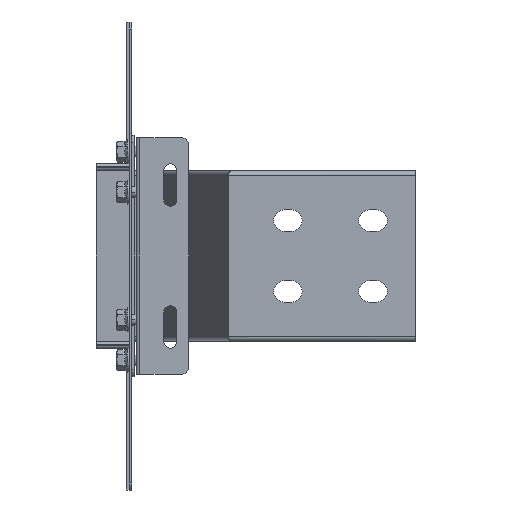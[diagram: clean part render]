
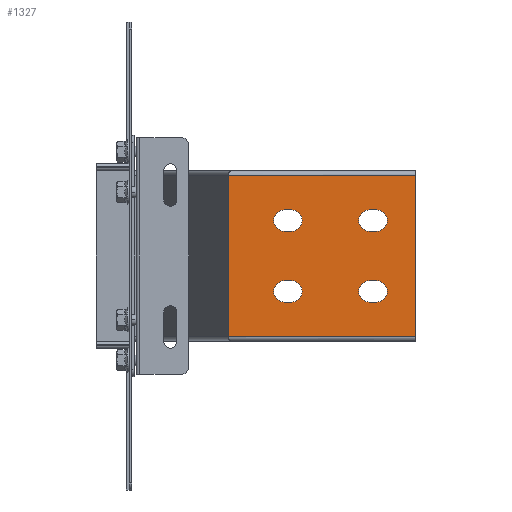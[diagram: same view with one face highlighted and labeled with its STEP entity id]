
A CAD part, front view. The second image highlights one B-rep face of the part: STEP entity #1327.
In plain terms, the highlighted planar face has unit normal (0, -1, 0).
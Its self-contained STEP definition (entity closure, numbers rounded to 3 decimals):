
#1155=AXIS2_PLACEMENT_3D('Plane Axis2P3D',#1152,#1153,#1154) ;
#1193=AXIS2_PLACEMENT_3D('Circle Axis2P3D',#1191,#1192,$) ;
#1209=AXIS2_PLACEMENT_3D('Circle Axis2P3D',#1207,#1208,$) ;
#1227=AXIS2_PLACEMENT_3D('Circle Axis2P3D',#1225,#1226,$) ;
#1243=AXIS2_PLACEMENT_3D('Circle Axis2P3D',#1241,#1242,$) ;
#1261=AXIS2_PLACEMENT_3D('Circle Axis2P3D',#1259,#1260,$) ;
#1277=AXIS2_PLACEMENT_3D('Circle Axis2P3D',#1275,#1276,$) ;
#1304=AXIS2_PLACEMENT_3D('Circle Axis2P3D',#1302,#1303,$) ;
#1318=AXIS2_PLACEMENT_3D('Circle Axis2P3D',#1316,#1317,$) ;
#1152=CARTESIAN_POINT('Axis2P3D Location',(200.,-153.,-57.)) ;
#1157=CARTESIAN_POINT('Line Origine',(134.011,-153.,-57.)) ;
#1161=CARTESIAN_POINT('Vertex',(200.,-153.,-57.)) ;
#1163=CARTESIAN_POINT('Vertex',(68.023,-153.,-57.)) ;
#1166=CARTESIAN_POINT('Line Origine',(200.,-153.,0.)) ;
#1170=CARTESIAN_POINT('Vertex',(200.,-153.,57.)) ;
#1173=CARTESIAN_POINT('Line Origine',(134.011,-153.,57.)) ;
#1177=CARTESIAN_POINT('Vertex',(68.023,-153.,57.)) ;
#1180=CARTESIAN_POINT('Line Origine',(68.023,-153.,0.)) ;
#1191=CARTESIAN_POINT('Axis2P3D Location',(112.5,-153.,25.)) ;
#1195=CARTESIAN_POINT('Vertex',(112.5,-153.,17.5)) ;
#1197=CARTESIAN_POINT('Vertex',(112.5,-153.,32.5)) ;
#1200=CARTESIAN_POINT('Line Origine',(110.,-153.,17.5)) ;
#1204=CARTESIAN_POINT('Vertex',(107.5,-153.,17.5)) ;
#1207=CARTESIAN_POINT('Axis2P3D Location',(107.5,-153.,25.)) ;
#1211=CARTESIAN_POINT('Vertex',(107.5,-153.,32.5)) ;
#1214=CARTESIAN_POINT('Line Origine',(110.,-153.,32.5)) ;
#1225=CARTESIAN_POINT('Axis2P3D Location',(172.5,-153.,25.)) ;
#1229=CARTESIAN_POINT('Vertex',(172.5,-153.,17.5)) ;
#1231=CARTESIAN_POINT('Vertex',(172.5,-153.,32.5)) ;
#1234=CARTESIAN_POINT('Line Origine',(170.,-153.,17.5)) ;
#1238=CARTESIAN_POINT('Vertex',(167.5,-153.,17.5)) ;
#1241=CARTESIAN_POINT('Axis2P3D Location',(167.5,-153.,25.)) ;
#1245=CARTESIAN_POINT('Vertex',(167.5,-153.,32.5)) ;
#1248=CARTESIAN_POINT('Line Origine',(170.,-153.,32.5)) ;
#1259=CARTESIAN_POINT('Axis2P3D Location',(107.5,-153.,-25.)) ;
#1263=CARTESIAN_POINT('Vertex',(107.5,-153.,-17.5)) ;
#1265=CARTESIAN_POINT('Vertex',(107.5,-153.,-32.5)) ;
#1268=CARTESIAN_POINT('Line Origine',(110.,-153.,-17.5)) ;
#1272=CARTESIAN_POINT('Vertex',(112.5,-153.,-17.5)) ;
#1275=CARTESIAN_POINT('Axis2P3D Location',(112.5,-153.,-25.)) ;
#1279=CARTESIAN_POINT('Vertex',(112.5,-153.,-32.5)) ;
#1282=CARTESIAN_POINT('Line Origine',(110.,-153.,-32.5)) ;
#1293=CARTESIAN_POINT('Line Origine',(170.,-153.,-17.5)) ;
#1297=CARTESIAN_POINT('Vertex',(172.5,-153.,-17.5)) ;
#1299=CARTESIAN_POINT('Vertex',(167.5,-153.,-17.5)) ;
#1302=CARTESIAN_POINT('Axis2P3D Location',(172.5,-153.,-25.)) ;
#1306=CARTESIAN_POINT('Vertex',(172.5,-153.,-32.5)) ;
#1309=CARTESIAN_POINT('Line Origine',(170.,-153.,-32.5)) ;
#1313=CARTESIAN_POINT('Vertex',(167.5,-153.,-32.5)) ;
#1316=CARTESIAN_POINT('Axis2P3D Location',(167.5,-153.,-25.)) ;
#1153=DIRECTION('Axis2P3D Direction',(0.,-1.,0.)) ;
#1154=DIRECTION('Axis2P3D XDirection',(0.,0.,1.)) ;
#1158=DIRECTION('Vector Direction',(-1.,0.,0.)) ;
#1167=DIRECTION('Vector Direction',(0.,0.,1.)) ;
#1174=DIRECTION('Vector Direction',(-1.,0.,0.)) ;
#1181=DIRECTION('Vector Direction',(0.,0.,1.)) ;
#1192=DIRECTION('Axis2P3D Direction',(0.,-1.,0.)) ;
#1201=DIRECTION('Vector Direction',(-1.,0.,0.)) ;
#1208=DIRECTION('Axis2P3D Direction',(0.,-1.,0.)) ;
#1215=DIRECTION('Vector Direction',(1.,0.,0.)) ;
#1226=DIRECTION('Axis2P3D Direction',(0.,-1.,0.)) ;
#1235=DIRECTION('Vector Direction',(1.,0.,0.)) ;
#1242=DIRECTION('Axis2P3D Direction',(0.,-1.,0.)) ;
#1249=DIRECTION('Vector Direction',(-1.,0.,0.)) ;
#1260=DIRECTION('Axis2P3D Direction',(0.,-1.,0.)) ;
#1269=DIRECTION('Vector Direction',(-1.,0.,0.)) ;
#1276=DIRECTION('Axis2P3D Direction',(0.,-1.,0.)) ;
#1283=DIRECTION('Vector Direction',(1.,0.,0.)) ;
#1294=DIRECTION('Vector Direction',(1.,0.,0.)) ;
#1303=DIRECTION('Axis2P3D Direction',(0.,-1.,0.)) ;
#1310=DIRECTION('Vector Direction',(-1.,0.,0.)) ;
#1317=DIRECTION('Axis2P3D Direction',(0.,-1.,0.)) ;
#1159=VECTOR('Line Direction',#1158,1.) ;
#1168=VECTOR('Line Direction',#1167,1.) ;
#1175=VECTOR('Line Direction',#1174,1.) ;
#1182=VECTOR('Line Direction',#1181,1.) ;
#1202=VECTOR('Line Direction',#1201,1.) ;
#1216=VECTOR('Line Direction',#1215,1.) ;
#1236=VECTOR('Line Direction',#1235,1.) ;
#1250=VECTOR('Line Direction',#1249,1.) ;
#1270=VECTOR('Line Direction',#1269,1.) ;
#1284=VECTOR('Line Direction',#1283,1.) ;
#1295=VECTOR('Line Direction',#1294,1.) ;
#1311=VECTOR('Line Direction',#1310,1.) ;
#1186=ORIENTED_EDGE('',*,*,#1165,.F.) ;
#1187=ORIENTED_EDGE('',*,*,#1172,.F.) ;
#1188=ORIENTED_EDGE('',*,*,#1179,.T.) ;
#1189=ORIENTED_EDGE('',*,*,#1184,.F.) ;
#1220=ORIENTED_EDGE('',*,*,#1199,.F.) ;
#1221=ORIENTED_EDGE('',*,*,#1206,.F.) ;
#1222=ORIENTED_EDGE('',*,*,#1213,.F.) ;
#1223=ORIENTED_EDGE('',*,*,#1218,.F.) ;
#1254=ORIENTED_EDGE('',*,*,#1233,.F.) ;
#1255=ORIENTED_EDGE('',*,*,#1240,.F.) ;
#1256=ORIENTED_EDGE('',*,*,#1247,.F.) ;
#1257=ORIENTED_EDGE('',*,*,#1252,.F.) ;
#1288=ORIENTED_EDGE('',*,*,#1267,.F.) ;
#1289=ORIENTED_EDGE('',*,*,#1274,.F.) ;
#1290=ORIENTED_EDGE('',*,*,#1281,.F.) ;
#1291=ORIENTED_EDGE('',*,*,#1286,.F.) ;
#1322=ORIENTED_EDGE('',*,*,#1301,.F.) ;
#1323=ORIENTED_EDGE('',*,*,#1308,.F.) ;
#1324=ORIENTED_EDGE('',*,*,#1315,.F.) ;
#1325=ORIENTED_EDGE('',*,*,#1320,.F.) ;
#1224=FACE_BOUND('',#1219,.T.) ;
#1258=FACE_BOUND('',#1253,.T.) ;
#1292=FACE_BOUND('',#1287,.T.) ;
#1326=FACE_BOUND('',#1321,.T.) ;
#1327=ADVANCED_FACE('N',(#1190,#1224,#1258,#1292,#1326),#1156,.T.) ;
#1194=CIRCLE('generated circle',#1193,7.5) ;
#1210=CIRCLE('generated circle',#1209,7.5) ;
#1228=CIRCLE('generated circle',#1227,7.5) ;
#1244=CIRCLE('generated circle',#1243,7.5) ;
#1262=CIRCLE('generated circle',#1261,7.5) ;
#1278=CIRCLE('generated circle',#1277,7.5) ;
#1305=CIRCLE('generated circle',#1304,7.5) ;
#1319=CIRCLE('generated circle',#1318,7.5) ;
#1165=EDGE_CURVE('',#1162,#1164,#1160,.T.) ;
#1172=EDGE_CURVE('',#1171,#1162,#1169,.F.) ;
#1179=EDGE_CURVE('',#1171,#1178,#1176,.T.) ;
#1184=EDGE_CURVE('',#1164,#1178,#1183,.T.) ;
#1199=EDGE_CURVE('',#1196,#1198,#1194,.T.) ;
#1206=EDGE_CURVE('',#1205,#1196,#1203,.F.) ;
#1213=EDGE_CURVE('',#1212,#1205,#1210,.T.) ;
#1218=EDGE_CURVE('',#1198,#1212,#1217,.F.) ;
#1233=EDGE_CURVE('',#1230,#1232,#1228,.T.) ;
#1240=EDGE_CURVE('',#1239,#1230,#1237,.T.) ;
#1247=EDGE_CURVE('',#1246,#1239,#1244,.T.) ;
#1252=EDGE_CURVE('',#1232,#1246,#1251,.T.) ;
#1267=EDGE_CURVE('',#1264,#1266,#1262,.T.) ;
#1274=EDGE_CURVE('',#1273,#1264,#1271,.T.) ;
#1281=EDGE_CURVE('',#1280,#1273,#1278,.T.) ;
#1286=EDGE_CURVE('',#1266,#1280,#1285,.T.) ;
#1301=EDGE_CURVE('',#1298,#1300,#1296,.F.) ;
#1308=EDGE_CURVE('',#1307,#1298,#1305,.T.) ;
#1315=EDGE_CURVE('',#1314,#1307,#1312,.F.) ;
#1320=EDGE_CURVE('',#1300,#1314,#1319,.T.) ;
#1185=EDGE_LOOP('',(#1186,#1187,#1188,#1189)) ;
#1219=EDGE_LOOP('',(#1220,#1221,#1222,#1223)) ;
#1253=EDGE_LOOP('',(#1254,#1255,#1256,#1257)) ;
#1287=EDGE_LOOP('',(#1288,#1289,#1290,#1291)) ;
#1321=EDGE_LOOP('',(#1322,#1323,#1324,#1325)) ;
#1190=FACE_OUTER_BOUND('',#1185,.T.) ;
#1160=LINE('Line',#1157,#1159) ;
#1169=LINE('Line',#1166,#1168) ;
#1176=LINE('Line',#1173,#1175) ;
#1183=LINE('Line',#1180,#1182) ;
#1203=LINE('Line',#1200,#1202) ;
#1217=LINE('Line',#1214,#1216) ;
#1237=LINE('Line',#1234,#1236) ;
#1251=LINE('Line',#1248,#1250) ;
#1271=LINE('Line',#1268,#1270) ;
#1285=LINE('Line',#1282,#1284) ;
#1296=LINE('Line',#1293,#1295) ;
#1312=LINE('Line',#1309,#1311) ;
#1156=PLANE('',#1155) ;
#1162=VERTEX_POINT('',#1161) ;
#1164=VERTEX_POINT('',#1163) ;
#1171=VERTEX_POINT('',#1170) ;
#1178=VERTEX_POINT('',#1177) ;
#1196=VERTEX_POINT('',#1195) ;
#1198=VERTEX_POINT('',#1197) ;
#1205=VERTEX_POINT('',#1204) ;
#1212=VERTEX_POINT('',#1211) ;
#1230=VERTEX_POINT('',#1229) ;
#1232=VERTEX_POINT('',#1231) ;
#1239=VERTEX_POINT('',#1238) ;
#1246=VERTEX_POINT('',#1245) ;
#1264=VERTEX_POINT('',#1263) ;
#1266=VERTEX_POINT('',#1265) ;
#1273=VERTEX_POINT('',#1272) ;
#1280=VERTEX_POINT('',#1279) ;
#1298=VERTEX_POINT('',#1297) ;
#1300=VERTEX_POINT('',#1299) ;
#1307=VERTEX_POINT('',#1306) ;
#1314=VERTEX_POINT('',#1313) ;
